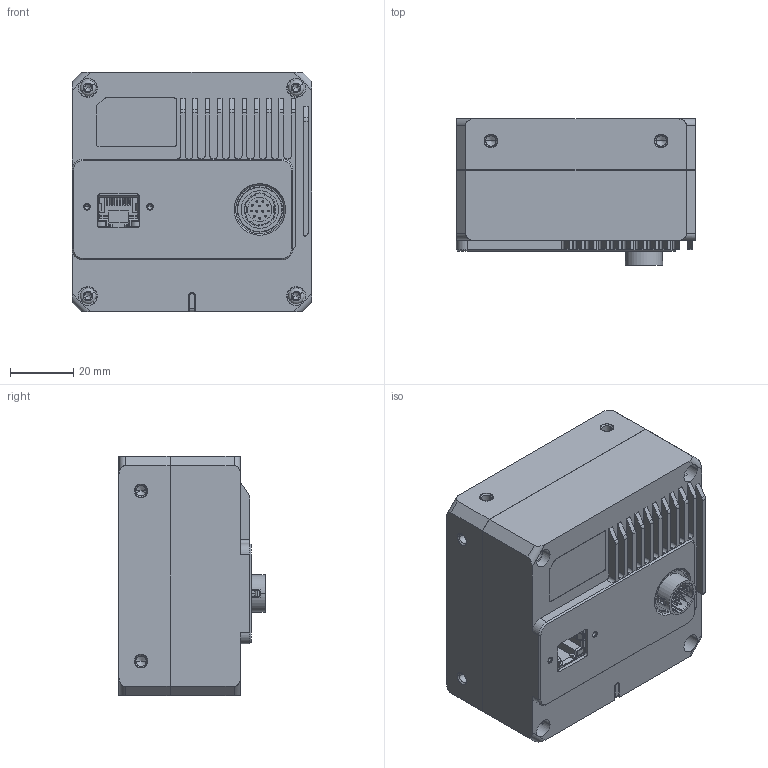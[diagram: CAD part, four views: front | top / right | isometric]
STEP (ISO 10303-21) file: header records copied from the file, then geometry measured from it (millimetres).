
FILE_DESCRIPTION((''),'2;1');
FILE_NAME('00-MV-CL084-B1NM_ASM','2025-03-06T20:54:04',('zhangqianwen8'),(''),'CREO PARAMETRIC BY PTC INC, 2020044','CREO PARAMETRIC BY PTC INC, 2020044','');
FILE_SCHEMA(('CONFIG_CONTROL_DESIGN'));
Products named in the file (1): 00-MV-CL084-B1NM_ASM
Bounding box: 76 x 46.31 x 76 mm (x, y, z)
Volume: 1696 mm3; surface area: 62900.7 mm2
Topology: 17 solids, 90 shells, 3041 faces, 8465 edges, 5435 vertices
Faces by surface type: plane 1774, cylinder 961, cone 190, bspline 50, torus 30, extrusion 24, sphere 12
Entity records: 114037 total; most frequent: CARTESIAN_POINT 36537, ORIENTED_EDGE 16108, DIRECTION 15769, EDGE_CURVE 8387, VECTOR 5563, LINE 5539, VERTEX_POINT 5435, AXIS2_PLACEMENT_3D 5103
